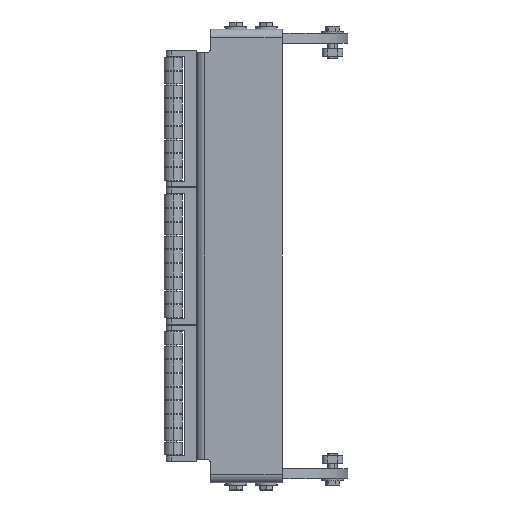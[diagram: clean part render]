
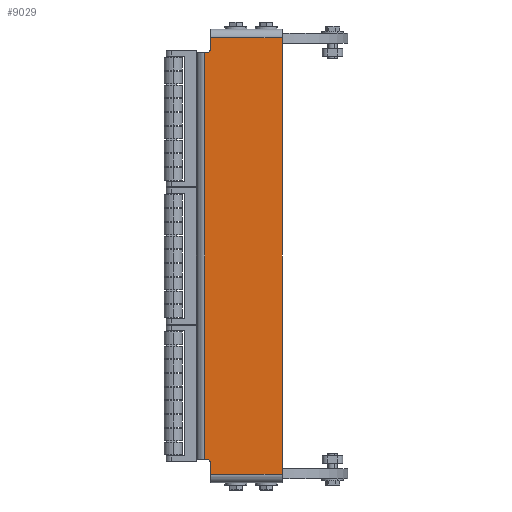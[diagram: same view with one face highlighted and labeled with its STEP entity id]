
A CAD part, left-side view. The second image highlights one B-rep face of the part: STEP entity #9029.
In plain terms, the highlighted planar face has unit normal (-1, 0, 0) as drawn and (1, 0, 0) by its records, which use the part's own axes.
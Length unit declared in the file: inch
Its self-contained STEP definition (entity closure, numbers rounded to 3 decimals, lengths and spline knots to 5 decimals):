
#7889=DIRECTION('',(0.,-1.,0.));
#7890=VECTOR('',#7889,0.023);
#7891=CARTESIAN_POINT('',(0.,0.9605,5.));
#7892=LINE('',#7891,#7890);
#7893=DIRECTION('',(0.,1.,0.));
#7894=VECTOR('',#7893,0.023);
#7895=CARTESIAN_POINT('',(0.,0.9375,-5.));
#7896=LINE('',#7895,#7894);
#7897=CARTESIAN_POINT('',(0.,0.9375,-5.125));
#7898=DIRECTION('',(-1.,0.,0.));
#7899=DIRECTION('',(0.,-1.,0.));
#7900=AXIS2_PLACEMENT_3D('',#7897,#7898,#7899);
#7902=DIRECTION('',(0.,0.,1.));
#7903=VECTOR('',#7902,0.25);
#7904=CARTESIAN_POINT('',(0.,0.8125,-5.375));
#7905=LINE('',#7904,#7903);
#7906=DIRECTION('',(0.,0.,1.));
#7907=VECTOR('',#7906,0.25);
#7908=CARTESIAN_POINT('',(0.,0.8125,5.125));
#7909=LINE('',#7908,#7907);
#7910=CARTESIAN_POINT('',(0.,0.9375,5.125));
#7911=DIRECTION('',(-1.,0.,0.));
#7912=DIRECTION('',(0.,0.,-1.));
#7913=AXIS2_PLACEMENT_3D('',#7910,#7911,#7912);
#8388=DIRECTION('',(0.,-1.,0.));
#8389=VECTOR('',#8388,1.75);
#8390=CARTESIAN_POINT('',(0.,0.8125,-5.375));
#8391=LINE('',#8390,#8389);
#8396=DIRECTION('',(0.,0.,-1.));
#8397=VECTOR('',#8396,10.);
#8398=CARTESIAN_POINT('',(0.,0.9605,5.));
#8399=LINE('',#8398,#8397);
#8464=DIRECTION('',(0.,0.,1.));
#8465=VECTOR('',#8464,10.75);
#8466=CARTESIAN_POINT('',(0.,-0.9375,-5.375));
#8467=LINE('',#8466,#8465);
#8604=DIRECTION('',(0.,1.,0.));
#8605=VECTOR('',#8604,1.75);
#8606=CARTESIAN_POINT('',(0.,-0.9375,5.375));
#8607=LINE('',#8606,#8605);
#8712=CARTESIAN_POINT('',(0.,0.9375,5.));
#8713=CARTESIAN_POINT('',(0.,0.8125,5.125));
#8714=VERTEX_POINT('',#8712);
#8715=VERTEX_POINT('',#8713);
#8790=CARTESIAN_POINT('',(0.,-0.9375,5.375));
#8792=VERTEX_POINT('',#8790);
#8794=CARTESIAN_POINT('',(0.,0.9605,5.));
#8796=VERTEX_POINT('',#8794);
#8812=CARTESIAN_POINT('',(0.,0.9605,-5.));
#8813=VERTEX_POINT('',#8812);
#8820=CARTESIAN_POINT('',(0.,0.8125,5.375));
#8821=VERTEX_POINT('',#8820);
#8822=CARTESIAN_POINT('',(0.,0.8125,-5.375));
#8823=CARTESIAN_POINT('',(0.,0.8125,-5.125));
#8824=VERTEX_POINT('',#8822);
#8825=VERTEX_POINT('',#8823);
#8868=CARTESIAN_POINT('',(0.,-0.9375,-5.375));
#8869=VERTEX_POINT('',#8868);
#8920=CARTESIAN_POINT('',(0.,0.9375,-5.));
#8921=VERTEX_POINT('',#8920);
#9003=CARTESIAN_POINT('',(0.,0.,0.));
#9004=DIRECTION('',(1.,0.,0.));
#9005=DIRECTION('',(0.,0.,-1.));
#9006=AXIS2_PLACEMENT_3D('',#9003,#9004,#9005);
#9007=PLANE('',#9006);
#9009=ORIENTED_EDGE('',*,*,#9008,.F.);
#9011=ORIENTED_EDGE('',*,*,#9010,.T.);
#9013=ORIENTED_EDGE('',*,*,#9012,.F.);
#9015=ORIENTED_EDGE('',*,*,#9014,.F.);
#9017=ORIENTED_EDGE('',*,*,#9016,.F.);
#9019=ORIENTED_EDGE('',*,*,#9018,.T.);
#9021=ORIENTED_EDGE('',*,*,#9020,.T.);
#9023=ORIENTED_EDGE('',*,*,#9022,.T.);
#9024=ORIENTED_EDGE('',*,*,#8993,.F.);
#9026=ORIENTED_EDGE('',*,*,#9025,.F.);
#9027=EDGE_LOOP('',(#9009,#9011,#9013,#9015,#9017,#9019,#9021,#9023,#9024,
#9026));
#9028=FACE_OUTER_BOUND('',#9027,.F.);
#7901=CIRCLE('',#7900,0.125);
#7914=CIRCLE('',#7913,0.125);
#8993=EDGE_CURVE('',#8715,#8821,#7909,.T.);
#9008=EDGE_CURVE('',#8796,#8714,#7892,.T.);
#9010=EDGE_CURVE('',#8796,#8813,#8399,.T.);
#9012=EDGE_CURVE('',#8921,#8813,#7896,.T.);
#9014=EDGE_CURVE('',#8825,#8921,#7901,.T.);
#9016=EDGE_CURVE('',#8824,#8825,#7905,.T.);
#9018=EDGE_CURVE('',#8824,#8869,#8391,.T.);
#9020=EDGE_CURVE('',#8869,#8792,#8467,.T.);
#9022=EDGE_CURVE('',#8792,#8821,#8607,.T.);
#9025=EDGE_CURVE('',#8714,#8715,#7914,.T.);
#9029=ADVANCED_FACE('',(#9028),#9007,.T.);
